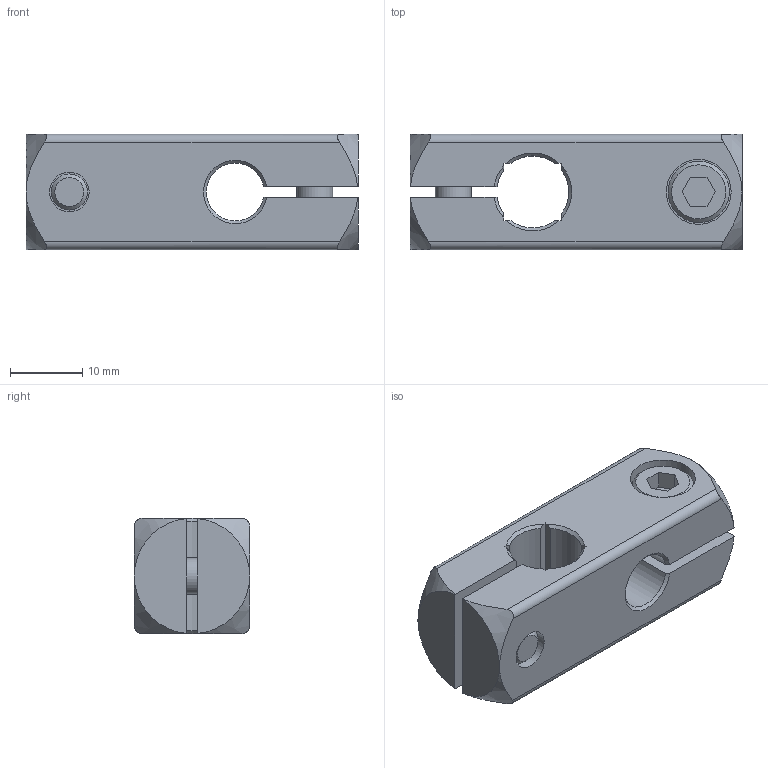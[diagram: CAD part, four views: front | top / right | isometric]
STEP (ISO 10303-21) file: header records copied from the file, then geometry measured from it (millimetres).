
FILE_DESCRIPTION( ( 'STEP AP203' ), '1' );
FILE_NAME( 'C:/Temp/Ganter_Step_05_03_2020/data/3_7/gn_474/Two-way clamp mounting GN 474-B10-B8-MT.stp', '2020-03-12T14:44:41', ( 'License CC BY-ND 4.0' ), ( 'CADENAS' ), ' ', 'PARTsolutions', ' ' );
FILE_SCHEMA( ( 'CONFIG_CONTROL_DESIGN' ) );
Length unit declared in the file: millimetre
Products named in the file (1): _Two-way clamp mounting GN 474-B10-B8-MT
Bounding box: 46 x 16 x 16 mm (x, y, z)
Volume: 8678.2 mm3; surface area: 5715 mm2
Topology: 1 solids, 1 shells, 86 faces, 216 edges, 142 vertices
Faces by surface type: plane 42, cone 24, cylinder 20
Full cylindrical faces by diameter (mm): 5 x2, 5.5 x4, 8.5 x2, 9 x2
Entity records: 2780 total; most frequent: CARTESIAN_POINT 787, ORIENTED_EDGE 400, DIRECTION 374, EDGE_CURVE 200, AXIS2_PLACEMENT_3D 143, VERTEX_POINT 140, EDGE_LOOP 114, FACE_OUTER_BOUND 96
